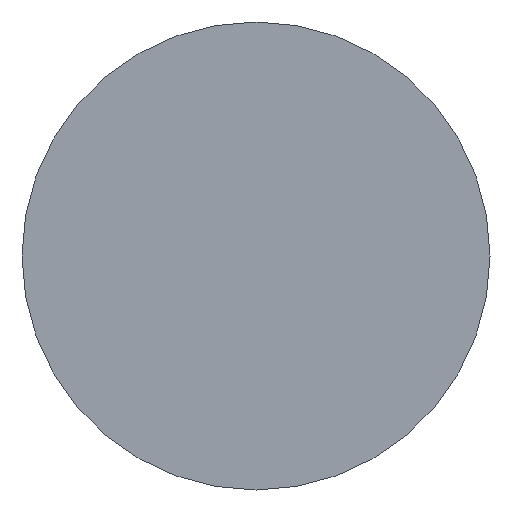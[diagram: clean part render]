
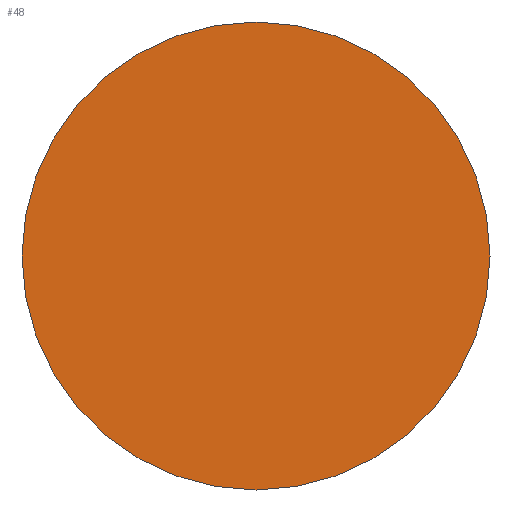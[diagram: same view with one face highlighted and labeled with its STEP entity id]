
A CAD part, front view. The second image highlights one B-rep face of the part: STEP entity #48.
In plain terms, the highlighted planar face has unit normal (0, -1, 0).
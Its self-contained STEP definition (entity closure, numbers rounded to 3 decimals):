
#1=CARTESIAN_POINT('',(0.,-20.,0.));
#2=DIRECTION('',(0.,1.,0.));
#3=DIRECTION('',(1.,0.,0.));
#4=AXIS2_PLACEMENT_3D('',#1,#2,#3);
#6=CARTESIAN_POINT('',(0.,-20.,0.));
#7=DIRECTION('',(0.,1.,0.));
#8=DIRECTION('',(-1.,0.,0.));
#9=AXIS2_PLACEMENT_3D('',#6,#7,#8);
#29=CARTESIAN_POINT('',(5.,-20.,0.));
#30=CARTESIAN_POINT('',(-5.,-20.,0.));
#31=VERTEX_POINT('',#29);
#32=VERTEX_POINT('',#30);
#37=CARTESIAN_POINT('',(0.,-20.,0.));
#38=DIRECTION('',(0.,1.,0.));
#39=DIRECTION('',(1.,0.,0.));
#40=AXIS2_PLACEMENT_3D('',#37,#38,#39);
#41=PLANE('',#40);
#43=ORIENTED_EDGE('',*,*,#42,.T.);
#45=ORIENTED_EDGE('',*,*,#44,.T.);
#46=EDGE_LOOP('',(#43,#45));
#47=FACE_OUTER_BOUND('',#46,.F.);
#48=ADVANCED_FACE('',(#47),#41,.F.);
#5=CIRCLE('',#4,5.);
#10=CIRCLE('',#9,5.);
#42=EDGE_CURVE('',#31,#32,#5,.T.);
#44=EDGE_CURVE('',#32,#31,#10,.T.);
